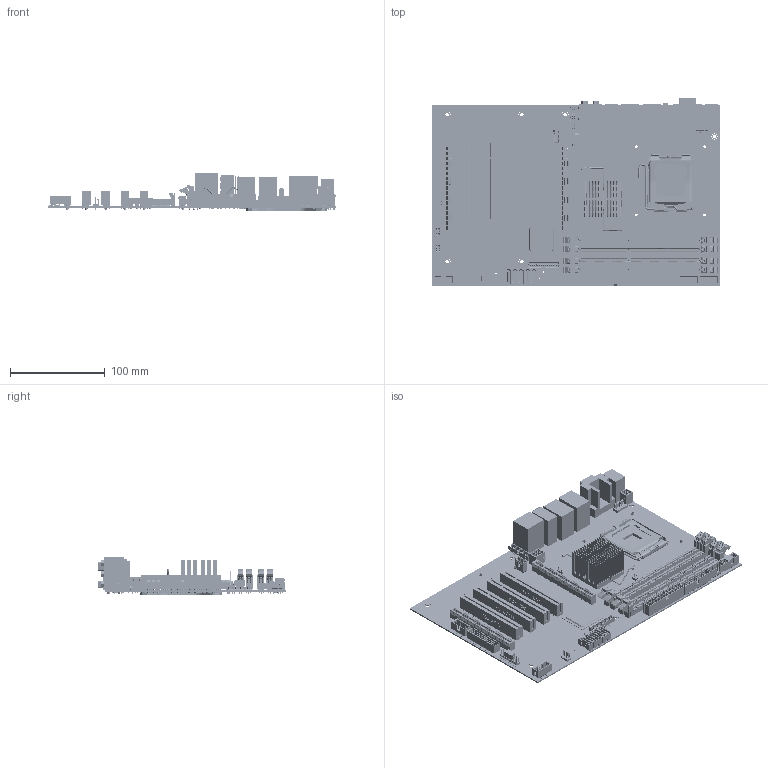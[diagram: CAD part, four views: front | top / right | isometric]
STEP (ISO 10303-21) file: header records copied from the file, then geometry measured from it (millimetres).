
FILE_DESCRIPTION((''),'2;1');
FILE_NAME('KTQ45ATXE_ASM','2009-07-22T',('tpi00667'),(''),'PRO/ENGINEER BY PARAMETRIC TECHNOLOGY CORPORATION, 2008170','PRO/ENGINEER BY PARAMETRIC TECHNOLOGY CORPORATION, 2008170','');
FILE_SCHEMA(('CONFIG_CONTROL_DESIGN'));
Length unit declared in the file: millimetre
Products named in the file (231): MB; CONN_DDR3_MOLEX; DDR3-ASY-MOOSE_ASM; CON-PWR24P-FOXCONN-HM25120; 039281043; 878322620; 878323020; C-1-104450-0-AD-3D; CONN-PCI-EX16-MOLEX877152300; CON-PCI-FXN-EH06001_GC_W; HF2704E-M1; 22-23-2061; HOLDER_25X25X9P; BOX_HOLDER_254X254X26P_SMT; HOLDER_25X25X10P; BOX_HOLDER_254X254X24P_SMT; 46C6903-012; FOXCONN-DM1019_4; RJ45-USB_P35-PB4-RDW9_SPEEDTECH; WIESON-PS2_4; MOLEX-HSC-SD-67800-008_4; TSM-110-01-L-DV-004-P-TR_4; MOLEX-SD-45718_4; PLASTRON_SPHS-10S-X-X-V02_9PIN_; WIESON-G2120HT0038-012_24P_4; WIESON-2120-SMT-26P_4; KTQ45_HEATSINK; KTQ45_HEATSINK_BAR; KTQ45_HEATSINK_ASSY_ASM; INTEL-EAGLELAKE_BX2_4; INTEL-ICH10-CHIPSET_4; BX2-775-PLATE__4; PRT0023; PRT0024; PRT0025; PRT0026; PRT0027; PRT0028; PRT0029; PRT0030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
Assembly tree (246 placements, depth 3):
  KTQ45ATXE_ASM
    MB
    DDR3-ASY-MOOSE_ASM  x4
      CONN_DDR3_MOLEX
    CON-PWR24P-FOXCONN-HM25120
    039281043
    878322620
    878323020
    C-1-104450-0-AD-3D
    CONN-PCI-EX16-MOLEX877152300  x2
    CON-PCI-FXN-EH06001_GC_W  x4
    HF2704E-M1  x2
    22-23-2061
    HOLDER_25X25X9P  x3
    BOX_HOLDER_254X254X26P_SMT
    HOLDER_25X25X10P
    BOX_HOLDER_254X254X24P_SMT
    46C6903-012  x2
    FOXCONN-DM1019_4
    RJ45-USB_P35-PB4-RDW9_SPEEDTECH  x2
    WIESON-PS2_4
    MOLEX-HSC-SD-67800-008_4  x5
    TSM-110-01-L-DV-004-P-TR_4
    MOLEX-SD-45718_4
    PLASTRON_SPHS-10S-X-X-V02_9PIN_
    WIESON-G2120HT0038-012_24P_4
    WIESON-2120-SMT-26P_4
    KTQ45_HEATSINK_ASSY_ASM
      KTQ45_HEATSINK
      KTQ45_HEATSINK_BAR
    INTEL-EAGLELAKE_BX2_4
    INTEL-ICH10-CHIPSET_4
    BX2-775-PLATE__4
    ASM0003_ASM
      PRT0023
      PRT0024
      PRT0025
      PRT0026
      PRT0027
      PRT0028
      PRT0029
      PRT0030
      PRT0031
      PRT0032
      PRT0033
      PRT0034
      PRT0035
      PRT0036
      PRT0037
      PRT0038
      PRT0039
      PRT0040
      PRT0041
      PRT0042
      PRT0043
      PRT0044
      PRT0045
      PRT0046
      PRT0047
      PRT0048
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Bounding box: 304.8 x 197.62 x 39.3 mm (x, y, z)
Topology: 242 solids, 488 shells, 53537 faces, 150947 edges, 99284 vertices
Faces by surface type: plane 46187, cylinder 6814, sphere 398, torus 62, bspline 36, cone 32, extrusion 8
Entity records: 736040 total; most frequent: CARTESIAN_POINT 132911, ORIENTED_EDGE 127640, DIRECTION 118945, EDGE_CURVE 63928, VECTOR 55117, LINE 55109, VERTEX_POINT 42033, AXIS2_PLACEMENT_3D 31914
